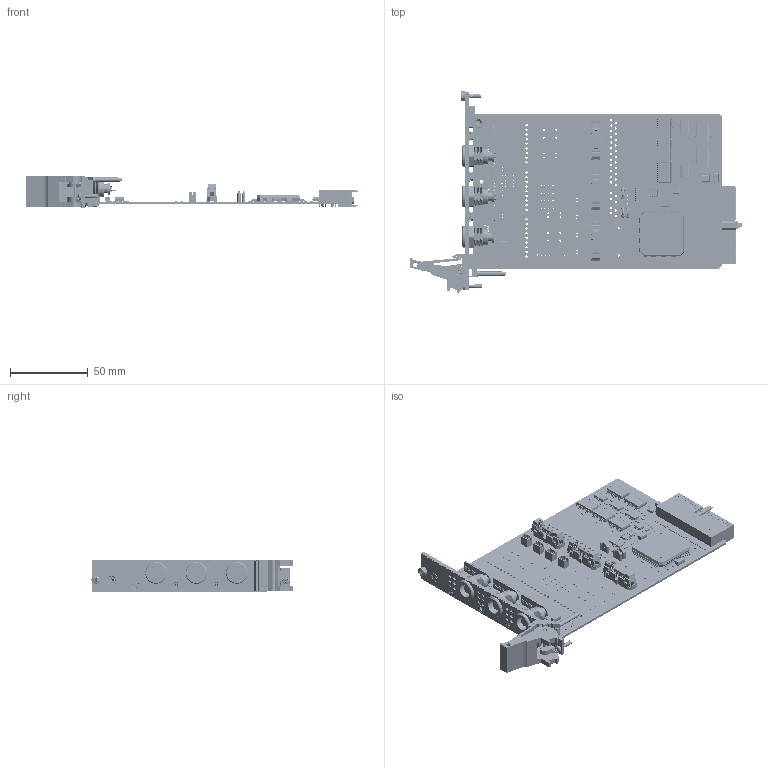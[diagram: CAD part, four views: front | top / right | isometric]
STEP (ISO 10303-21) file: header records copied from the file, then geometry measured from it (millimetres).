
FILE_DESCRIPTION (( 'STEP AP214' ), '1' );
FILE_NAME ('40-785B-923-E BASIC ASSY-S20.STEP', '2016-07-28T10:01:10', ( 'admin' ), ( 'Hewlett-Packard Company' ), 'SwSTEP 2.0', 'SolidWorks 2016', '' );
FILE_SCHEMA (( 'AUTOMOTIVE_DESIGN' ));
Length unit declared in the file: millimetre
Products named in the file (284): C-CP-034; C-CN-861 1 x 2 Way Header B2B-PH-K-S; C-RS-152 Res 10K 0603 1-16W 1% 300PPM; C-SC-147 BLUE LED 0603; P-FX-017 M2,5 Collar Posi-Slot Screw; C-FX-165 Handle Finger; C-CN-1132-PIN; Resistor 1206 x4 network Default; C-CN-887 2 X8 WAY HEADER MALE STRAIGHT; C-IC-124 16-Bit Constant Current Sink Driver; C-BK-026 Bush Front Panel Mounting; C-FX-165 Handle Body; C-CN-1318 ODU MINI-SNAP L-SERIES P10 PCB NUT; L-FX-165 PXI Handle Label; C-FX-025 Pcb Mounting Bracket; A-FP-874 PXI 1 SLT 3x8way Mini Snap FP+Label Assy; C-CN-1132 2x8 Through Samtec Header; C-FX-165 Handle Pin; L-FP-874 PXI 1 SLT FP Label Assy; C-CN-355 Compact pci connector 3; C-CN-971 2X8WAY FEMALE SMT HEADER 2MM; L-FP-874-# PXI 1 SLT 3x8 Way Minisnap FP Label; C-CN-1132-Base; C-IC-219 PLX PCI9052; pcb1055r0; pcb1059r0; C-IC-087 IC 74HCT32D Logic IC Smt; C-PC-716 RIM Interface PCB; C-CN-1318 ODU MINI-SNAP L-SERIES P10 PCB SOCKET; C-FP-874 PXI 3U 1 SLOT 3 x SNAP OUD; C-FX-028 Hex Nut M2.5 _C-FX-028 M2,5 Nut; C-IC-090 IC M 93C56; 40-785B-923-E BASIC ASSY-S20; C-BP-015 PXI 3U x 1 Slot Blank Panel; C-FX-034 M2.5 Nylon Washer; A-PC-1055 LED PCB Microwave Realy; C-FX-101 M2.5x6mm Pan Head Cross Recess Screw_ISO_ISO 7045 - M2.5 x 6 - Z --- 6N; A-PC-1055-# LED PCB Microwave Realy; A-PC-716 RIM Interface 40-780-524; C-FX-028 Hex Nut M2.5 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
Assembly tree (182 placements, depth 5):
  C-CP-034
  C-RS-152 Res 10K 0603 1-16W 1% 300PPM
  C-SC-147 BLUE LED 0603
  C-CP-034
  P-FX-017 M2,5 Collar Posi-Slot Screw
Bounding box: 214.01 x 129.67 x 20 mm (x, y, z)
Volume: 58579.1 mm3; surface area: 83622.3 mm2
Topology: 531 solids, 564 shells, 18565 faces, 47304 edges, 30299 vertices
Faces by surface type: plane 13908, cylinder 3502, cone 697, bspline 342, torus 85, sphere 31
Entity records: 341697 total; most frequent: CARTESIAN_POINT 58182, ORIENTED_EDGE 43018, DIRECTION 41747, EDGE_CURVE 21513, LINE 16851, VECTOR 16851, VERTEX_POINT 13865, AXIS2_PLACEMENT_3D 12448
